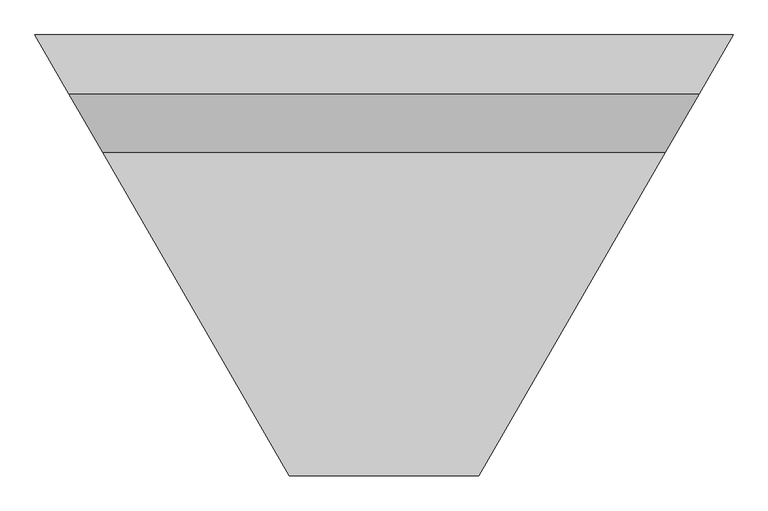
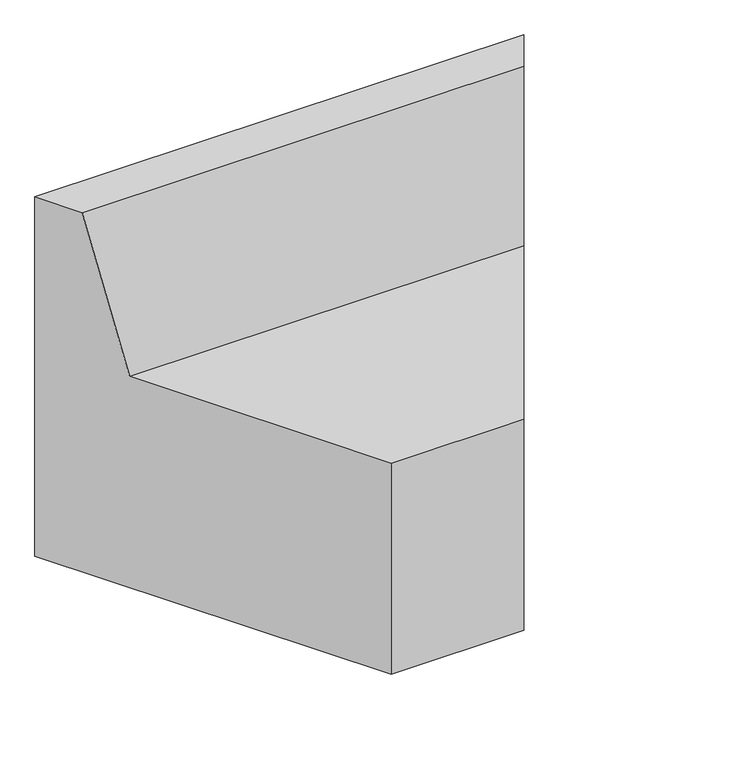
"""IFC4 building model written with IfcOpenShell, lengths in millimetres: furniture geometry, Hive Straight Seat : Hive Straight Seat."""

from ifc_helpers import new_model, si_unit, origin, place, context, project, spatial, faceted_brep, source, transform, mapped, element, save


def furniture_14fb0171(model_context):
    return source(origin(), model_context, "Body", "Brep", [
        faceted_brep([(515.0000094, 650.0, 800.0), (-514.9999938, 650.0, 800.0), (-464.9999769, 563.3974325, 800.0), (464.9999905, 563.3974325, 800.0), (-514.9999938, 650.0, 0.0), (515.0000094, 650.0, 0.0), (139.7223096, 0.0, 0.0), (-139.7223096, 0.0, 0.0), (-139.7223096, 0.0, 470.0000042), (-414.9999864, 476.7949107, 470.0000042), (139.7223096, 0.0, 470.0000042), (414.9999979, 476.7949107, 470.0000042)], [[[0, 1, 2, 3]], [[4, 5, 6, 7]], [[4, 7, 8, 9, 2, 1]], [[7, 6, 10, 8]], [[6, 5, 0, 3, 11, 10]], [[1, 0, 5, 4]], [[11, 9, 8, 10]], [[9, 11, 3, 2]]]),
    ])


if __name__ == "__main__":
    model = new_model("IFC4")
    model_context = context("Model", 3, world=origin())
    ifc_project = project(units=[si_unit("LENGTHUNIT", "METRE", prefix="MILLI")], contexts=[model_context])
    site = spatial("IfcSite", under=ifc_project)
    building = spatial("IfcBuilding", under=site)
    placement = place(None, origin())
    furniture_shape = furniture_14fb0171(model_context)
    element("IfcFurniture", 1, ObjectType="Hive Straight Seat : Hive Straight Seat", at=placement, inside=building, context=model_context, shape_type="MappedRepresentation", body=[
        mapped(furniture_shape, transform((0.0, 0.0, 0.0), x_axis=(1.0, 0.0, 0.0), y_axis=(0.0, 1.0, 0.0), z_axis=(0.0, 0.0, 1.0))),
    ])
    save(model, "model.ifc")
